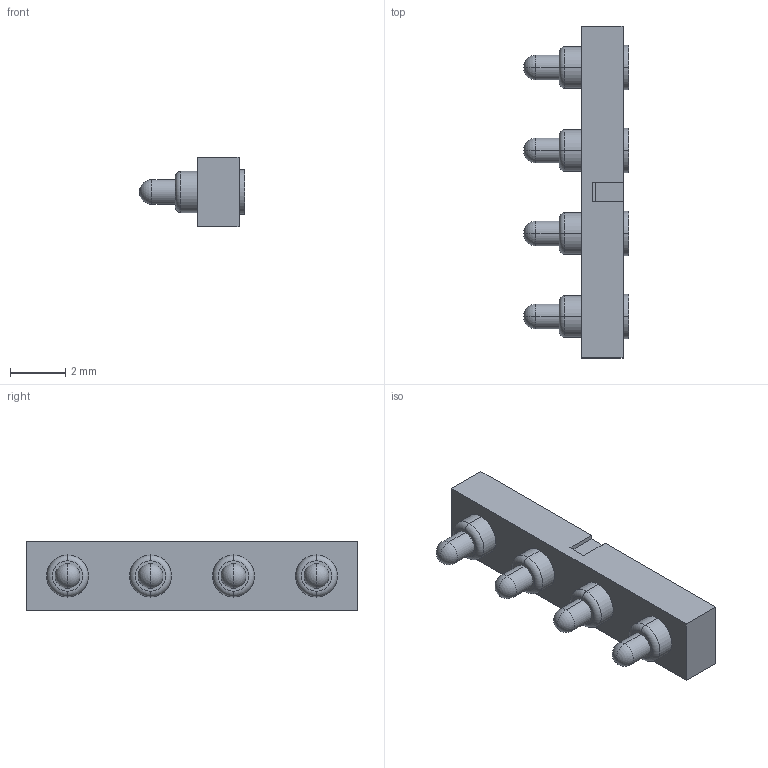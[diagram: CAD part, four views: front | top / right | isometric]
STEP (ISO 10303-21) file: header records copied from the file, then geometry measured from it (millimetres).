
FILE_DESCRIPTION((''),'2;1');
FILE_NAME('ASM0008_ASM','2023-06-07T15:32:14',('USER'),(''),'CREO PARAMETRIC BY PTC INC, 2020154','CREO PARAMETRIC BY PTC INC, 2020154','');
FILE_SCHEMA(('CONFIG_CONTROL_DESIGN'));
Length unit declared in the file: millimetre
Products named in the file (3): PRT0017; PRT0016; ASM0008_ASM
Assembly tree (5 placements, depth 2):
  ASM0008_ASM
    PRT0017
    PRT0016  x4
Bounding box: 3.8 x 12 x 2.5 mm (x, y, z)
Volume: 54.6 mm3; surface area: 192.7 mm2
Topology: 5 solids, 5 shells, 103 faces, 223 edges, 134 vertices
Faces by surface type: cylinder 48, plane 31, cone 8, torus 8, sphere 8
Entity records: 1369 total; most frequent: DIRECTION 245, CARTESIAN_POINT 217, ORIENTED_EDGE 202, EDGE_CURVE 101, AXIS2_PLACEMENT_3D 93, VERTEX_POINT 65, VECTOR 59, LINE 59
